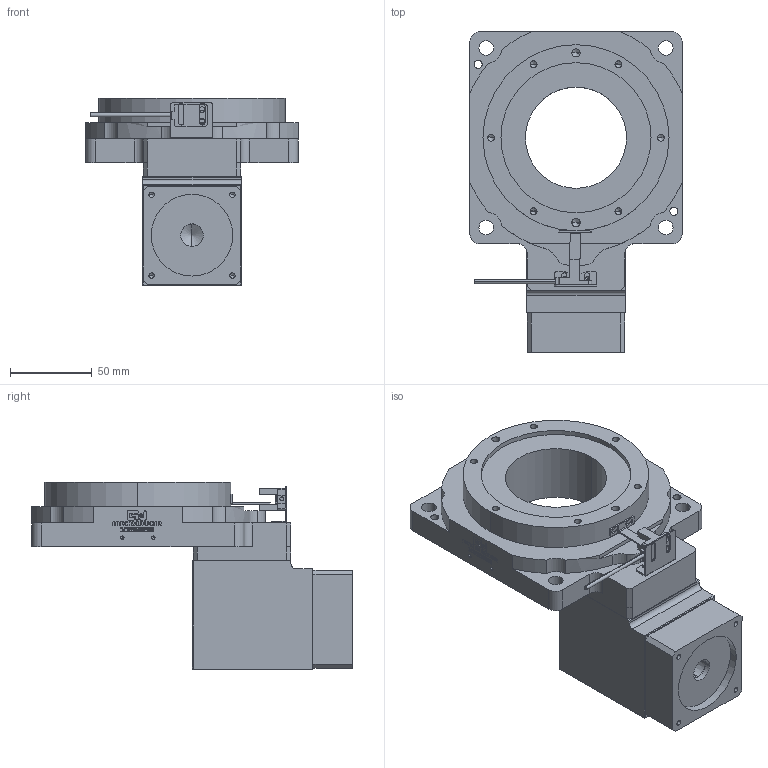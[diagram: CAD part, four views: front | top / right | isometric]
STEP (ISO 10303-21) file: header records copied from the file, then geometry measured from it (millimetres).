
FILE_DESCRIPTION (( 'STEP AP214' ), '1' );
FILE_NAME ('GT130-C-30-ZD-14-50-70-M4-2.STEP', '2024-07-08T06:06:14', ( '' ), ( '' ), 'SwSTEP 2.0', 'SolidWorks 2021', '' );
FILE_SCHEMA (( 'AUTOMOTIVE_DESIGN' ));
Length unit declared in the file: millimetre
Products named in the file (1): GT130-C-30-ZD-14-50-70-M4-2
Bounding box: 130 x 196.3 x 115 mm (x, y, z)
Volume: 788570.2 mm3; surface area: 171517.6 mm2
Topology: 41 solids, 47 shells, 1868 faces, 5201 edges, 3176 vertices
Faces by surface type: plane 708, cylinder 374, cone 241, torus 222, sphere 212, bspline 111
Entity records: 83199 total; most frequent: CARTESIAN_POINT 23488, ORIENTED_EDGE 9618, DIRECTION 8659, EDGE_CURVE 4809, AXIS2_PLACEMENT_3D 3203, VERTEX_POINT 3070, LINE 2253, VECTOR 2253
